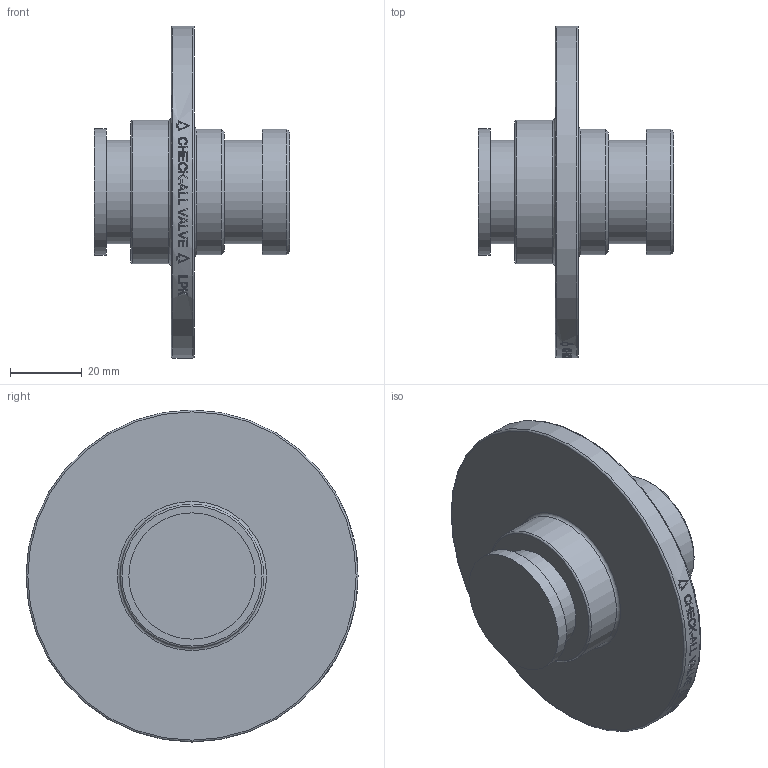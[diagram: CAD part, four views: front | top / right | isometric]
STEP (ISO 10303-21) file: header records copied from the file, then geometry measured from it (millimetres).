
FILE_DESCRIPTION( ( 'Unknown' ), '1' );
FILE_NAME( 'Y:/ENGR/3D Solid Edge Models/LP/LP(HC)-PRT/LPK.stp', 'Unknown', ( 'Unknown' ), ( 'Unknown' ), 'PSStep 15.0.49', 'Unknown', ' ' );
FILE_SCHEMA( ( 'AUTOMOTIVE_DESIGN { 1 0 10303 214 1 1 1 1 }' ) );
Length unit declared in the file: millimetre
Products named in the file (1): 1
Bounding box: 54.38 x 92.46 x 92.46 mm (x, y, z)
Volume: 87380.7 mm3; surface area: 21380.1 mm2
Topology: 1 solids, 1 shells, 213 faces, 535 edges, 355 vertices
Faces by surface type: plane 127, bspline 48, cylinder 31, torus 4, cone 3
Full cylindrical faces by diameter (mm): 28.829 x2, 34.925 x2, 35.179 x1, 40.005 x1, 92.456 x1
Entity records: 9415 total; most frequent: CARTESIAN_POINT 3751, ORIENTED_EDGE 1040, EDGE_CURVE 520, B_SPLINE_CURVE_WITH_KNOTS 498, DIRECTION 376, VERTEX_POINT 354, EDGE_LOOP 258, FACE_OUTER_BOUND 224
